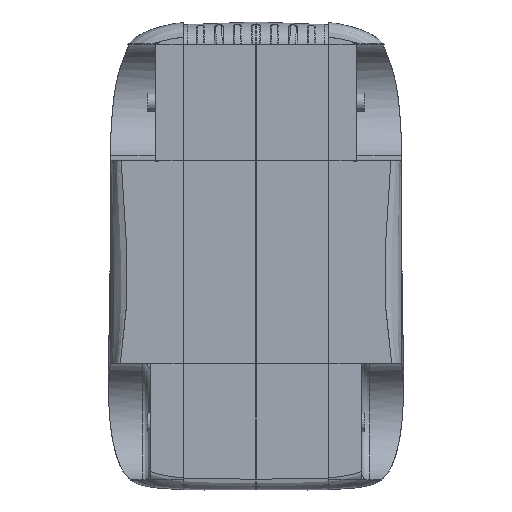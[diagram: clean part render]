
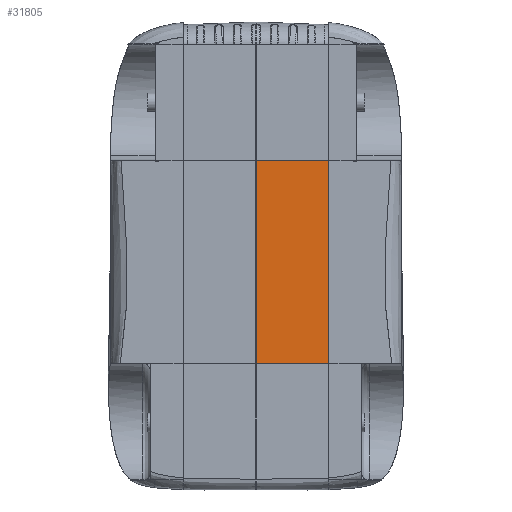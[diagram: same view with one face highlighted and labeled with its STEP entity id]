
A CAD part, front view. The second image highlights one B-rep face of the part: STEP entity #31805.
In plain terms, the highlighted planar face has unit normal (0, 1, 0).
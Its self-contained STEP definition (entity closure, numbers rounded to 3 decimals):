
#3812 = LINE ( 'NONE', #3892, #49734 ) ;
#3884 = LINE ( 'NONE', #3888, #49739 ) ;
#3888 = CARTESIAN_POINT ( 'NONE',  ( 496.118, -70., -533.236 ) ) ;
#3890 = DIRECTION ( 'NONE',  ( 1., 0., 0. ) ) ;
#3892 = CARTESIAN_POINT ( 'NONE',  ( 275.415, -70., -741.576 ) ) ;
#3897 = DIRECTION ( 'NONE',  ( 0., 0., 1. ) ) ;
#5707 = EDGE_LOOP ( 'NONE', ( #17886, #17884, #17882, #17880 ) ) ;
#9159 = CARTESIAN_POINT ( 'NONE',  ( 0., -70., -533.236 ) ) ;
#9164 = CARTESIAN_POINT ( 'NONE',  ( 275.415, -70., -1303.236 ) ) ;
#9166 = CARTESIAN_POINT ( 'NONE',  ( 275.415, -70., -533.236 ) ) ;
#9173 = CARTESIAN_POINT ( 'NONE',  ( 0., -70., -1303.236 ) ) ;
#14466 = LINE ( 'NONE', #14467, #49741 ) ;
#14467 = CARTESIAN_POINT ( 'NONE',  ( 0., -70., -58.668 ) ) ;
#14468 = DIRECTION ( 'NONE',  ( 0., 0., 1. ) ) ;
#14469 = LINE ( 'NONE', #14470, #49747 ) ;
#14470 = CARTESIAN_POINT ( 'NONE',  ( 496.118, -70., -1303.236 ) ) ;
#14471 = DIRECTION ( 'NONE',  ( 1., 0., 0. ) ) ;
#17880 = ORIENTED_EDGE ( 'NONE', *, *, #22976, .F. ) ;
#17882 = ORIENTED_EDGE ( 'NONE', *, *, #22975, .T. ) ;
#17884 = ORIENTED_EDGE ( 'NONE', *, *, #23180, .T. ) ;
#17886 = ORIENTED_EDGE ( 'NONE', *, *, #23181, .F. ) ;
#19552 = CARTESIAN_POINT ( 'NONE',  ( 496.118, -70., -741.576 ) ) ;
#19557 = FACE_OUTER_BOUND ( 'NONE', #5707, .T. ) ;
#19600 = PLANE ( 'NONE',  #49730 ) ;
#19603 = DIRECTION ( 'NONE',  ( 0., -1., 0. ) ) ;
#19604 = DIRECTION ( 'NONE',  ( 0., 0., -1. ) ) ;
#21611 = VERTEX_POINT ( 'NONE', #9159 ) ;
#21621 = VERTEX_POINT ( 'NONE', #9164 ) ;
#21625 = VERTEX_POINT ( 'NONE', #9166 ) ;
#21639 = VERTEX_POINT ( 'NONE', #9173 ) ;
#22975 = EDGE_CURVE ( 'NONE', #21611, #21625, #3884, .T. ) ;
#22976 = EDGE_CURVE ( 'NONE', #21621, #21625, #3812, .T. ) ;
#23180 = EDGE_CURVE ( 'NONE', #21639, #21611, #14466, .T. ) ;
#23181 = EDGE_CURVE ( 'NONE', #21639, #21621, #14469, .T. ) ;
#31805 = ADVANCED_FACE ( 'NONE', ( #19557 ), #19600, .F. ) ;
#49730 = AXIS2_PLACEMENT_3D ( 'NONE', #19552, #19603, #19604 ) ;
#49734 = VECTOR ( 'NONE', #3897, 1000. ) ;
#49739 = VECTOR ( 'NONE', #3890, 1000. ) ;
#49741 = VECTOR ( 'NONE', #14468, 1000. ) ;
#49747 = VECTOR ( 'NONE', #14471, 1000. ) ;
